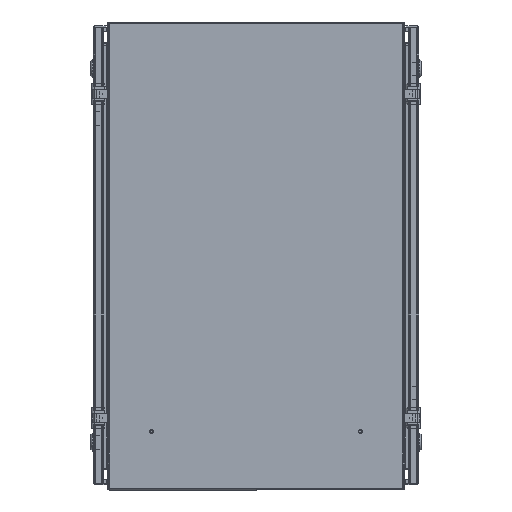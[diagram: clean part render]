
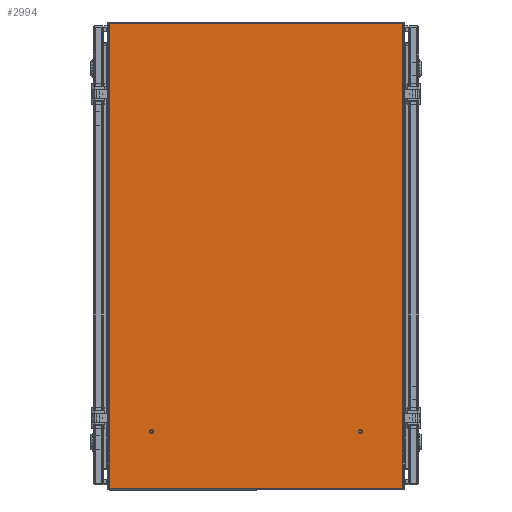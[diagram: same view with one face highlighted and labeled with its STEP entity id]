
A CAD part, left-side view. The second image highlights one B-rep face of the part: STEP entity #2994.
In plain terms, the highlighted planar face has unit normal (-1, 0, 0) as drawn and (1, 0, 0) by its records, which use the part's own axes.
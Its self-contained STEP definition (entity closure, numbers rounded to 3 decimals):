
#2994 = ADVANCED_FACE( '', ( #4342 ), #4343, .T. );
#4342 = FACE_OUTER_BOUND( '', #7340, .T. );
#4343 = PLANE( '', #7341 );
#7340 = EDGE_LOOP( '', ( #14398, #14399, #14400, #14401 ) );
#7341 = AXIS2_PLACEMENT_3D( '', #14402, #14403, #14404 );
#14398 = ORIENTED_EDGE( '', *, *, #21989, .T. );
#14399 = ORIENTED_EDGE( '', *, *, #21902, .T. );
#14400 = ORIENTED_EDGE( '', *, *, #22017, .T. );
#14401 = ORIENTED_EDGE( '', *, *, #22052, .F. );
#14402 = CARTESIAN_POINT( '', ( 761.086, 209.55, -329.286 ) );
#14403 = DIRECTION( '', ( 1., 0., 0. ) );
#14404 = DIRECTION( '', ( 0., 0., -1. ) );
#21902 = EDGE_CURVE( '', #24521, #24525, #24527, .T. );
#21989 = EDGE_CURVE( '', #24693, #24521, #24694, .T. );
#22017 = EDGE_CURVE( '', #24525, #24737, #24739, .T. );
#22052 = EDGE_CURVE( '', #24693, #24737, #24792, .T. );
#24521 = VERTEX_POINT( '', #28741 );
#24525 = VERTEX_POINT( '', #28746 );
#24527 = LINE( '', #28748, #28749 );
#24693 = VERTEX_POINT( '', #29005 );
#24694 = LINE( '', #29006, #29007 );
#24737 = VERTEX_POINT( '', #29135 );
#24739 = LINE( '', #29146, #29147 );
#24792 = LINE( '', #29255, #29256 );
#28741 = CARTESIAN_POINT( '', ( 761.086, 206.807, 326.542 ) );
#28746 = CARTESIAN_POINT( '', ( 761.086, -206.807, 326.542 ) );
#28748 = CARTESIAN_POINT( '', ( 761.086, 209.55, 326.542 ) );
#28749 = VECTOR( '', #36143, 1000. );
#29005 = CARTESIAN_POINT( '', ( 761.086, 206.807, -329.286 ) );
#29006 = CARTESIAN_POINT( '', ( 761.086, 206.807, -329.286 ) );
#29007 = VECTOR( '', #36272, 1000. );
#29135 = CARTESIAN_POINT( '', ( 761.086, -206.807, -329.286 ) );
#29146 = CARTESIAN_POINT( '', ( 761.086, -206.807, 326.542 ) );
#29147 = VECTOR( '', #36291, 1000. );
#29255 = CARTESIAN_POINT( '', ( 761.086, 209.55, -329.286 ) );
#29256 = VECTOR( '', #36329, 1000. );
#36143 = DIRECTION( '', ( 0., -1., 0. ) );
#36272 = DIRECTION( '', ( 0., 0., 1. ) );
#36291 = DIRECTION( '', ( 0., 0., -1. ) );
#36329 = DIRECTION( '', ( 0., -1., 0. ) );
